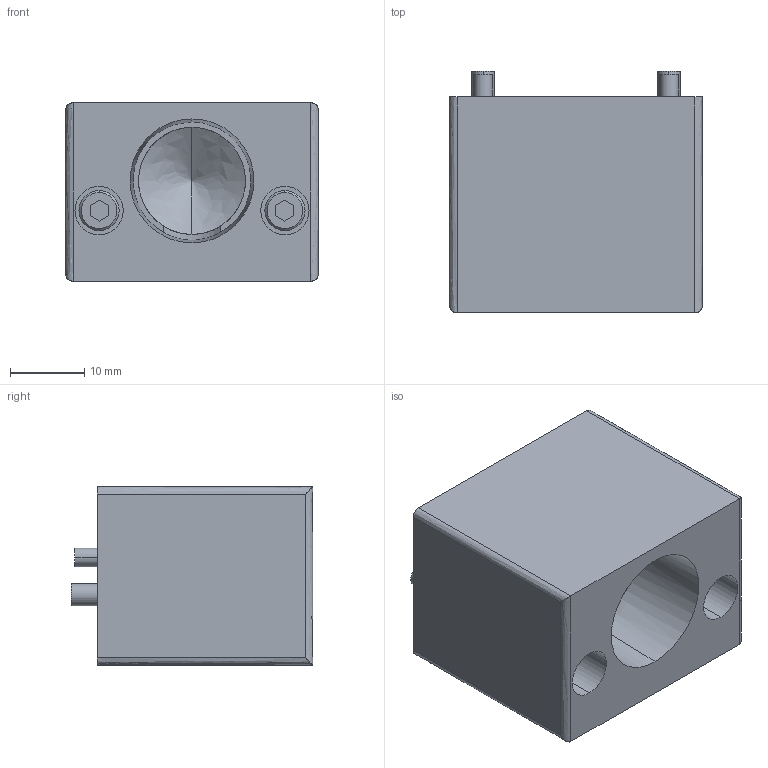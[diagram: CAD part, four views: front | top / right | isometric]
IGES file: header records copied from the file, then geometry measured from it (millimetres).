
Start section: 3D InterOp IGES (v. 2022 1.0.0), Spatial Corp. Copyright (c) 1999-2020.
Global section: file name: KHB-7~25RS-EP101_ver1.igs; native system: Spatial Corp.; preprocessor: 3D InterOp GENERIC/IGES 3.0; author: Noname; organization: Noname; date: 20260427.101744; units: millimetre
Bounding box: 34 x 32.5 x 24 mm (x, y, z)
Surface area: 7479.6 mm2 (no closed solid volume)
Topology: 0 solids, 0 shells, 81 faces, 358 edges, 356 vertices
Faces by surface type: revolution 46, extrusion 35
